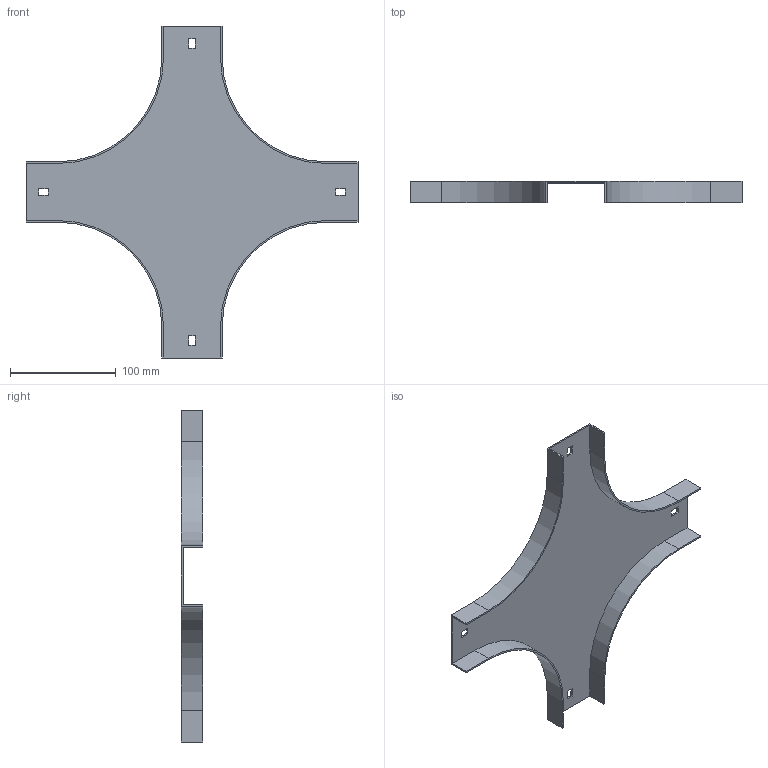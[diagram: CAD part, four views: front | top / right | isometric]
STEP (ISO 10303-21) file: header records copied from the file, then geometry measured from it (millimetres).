
FILE_DESCRIPTION (( 'STEP AP214' ), '1' );
FILE_NAME ('17G1R050.step', '2025-02-21T13:03:01', ( '' ), ( '' ), 'SwSTEP 2.0', 'SolidWorks 2023', '' );
FILE_SCHEMA (( 'AUTOMOTIVE_DESIGN' ));
Length unit declared in the file: millimetre
Products named in the file (1): 17G1R050
Bounding box: 314 x 20 x 314 mm (x, y, z)
Volume: 84927.3 mm3; surface area: 115274.7 mm2
Topology: 1 solids, 1 shells, 50 faces, 144 edges, 96 vertices
Faces by surface type: plane 42, cylinder 8
Entity records: 1663 total; most frequent: CARTESIAN_POINT 291, ORIENTED_EDGE 288, DIRECTION 262, EDGE_CURVE 144, VECTOR 128, LINE 128, VERTEX_POINT 96, AXIS2_PLACEMENT_3D 67
